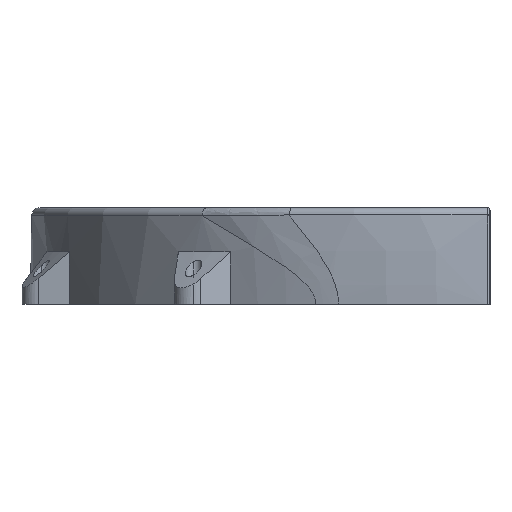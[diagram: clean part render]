
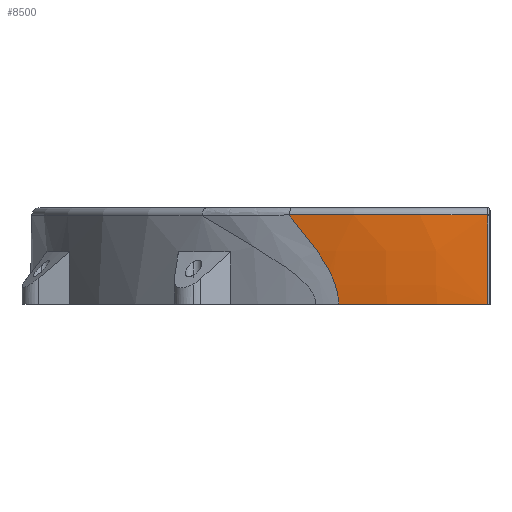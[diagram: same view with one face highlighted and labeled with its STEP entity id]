
A CAD part, left-side view. The second image highlights one B-rep face of the part: STEP entity #8500.
In plain terms, the highlighted toroidal (fillet/blend) face has major radius 50 mm and minor radius 150 mm.
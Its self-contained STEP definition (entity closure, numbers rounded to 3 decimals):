
#13 = CIRCLE ( 'NONE', #7796, 100. ) ;
#100 = CARTESIAN_POINT ( 'NONE',  ( -79.578, -2.497, 10.788 ) ) ;
#419 = DIRECTION ( 'NONE',  ( -1., 0., 0. ) ) ;
#924 = CARTESIAN_POINT ( 'NONE',  ( -79.942, -2.497, 2.7 ) ) ;
#1049 = CIRCLE ( 'NONE', #7167, 99.127 ) ;
#1079 = CARTESIAN_POINT ( 'NONE',  ( -72.723, 32.277, 14.998 ) ) ;
#1162 = CARTESIAN_POINT ( 'NONE',  ( -74.69, 28.044, 9.478 ) ) ;
#1591 = EDGE_LOOP ( 'NONE', ( #1861, #8237, #2552, #7137 ) ) ;
#1767 = CARTESIAN_POINT ( 'NONE',  ( -75.049, 27.182, 8.168 ) ) ;
#1844 = VERTEX_POINT ( 'NONE', #5979 ) ;
#1861 = ORIENTED_EDGE ( 'NONE', *, *, #2152, .F. ) ;
#1994 = VERTEX_POINT ( 'NONE', #5754 ) ;
#2053 = B_SPLINE_CURVE_WITH_KNOTS ( 'NONE', 3,
 ( #7378, #924, #3580, #100, #8026, #6244 ),
 .UNSPECIFIED., .F., .F.,
 ( 4, 2, 4 ),
 ( 0., 0.008, 0.016 ),
 .UNSPECIFIED. ) ;
#2152 = EDGE_CURVE ( 'NONE', #1994, #1844, #13, .T. ) ;
#2364 = DIRECTION ( 'NONE',  ( -1., 0., 0. ) ) ;
#2465 = CARTESIAN_POINT ( 'NONE',  ( -76.069, 24.519, 2.01 ) ) ;
#2552 = ORIENTED_EDGE ( 'NONE', *, *, #5046, .T. ) ;
#2606 = DIRECTION ( 'NONE',  ( -1., 0., 0. ) ) ;
#2789 = CARTESIAN_POINT ( 'NONE',  ( -72.202, 33.255, 16.162 ) ) ;
#3073 = CARTESIAN_POINT ( 'NONE',  ( -74.498, 28.494, 10.119 ) ) ;
#3158 = CARTESIAN_POINT ( 'NONE',  ( -73.878, 29.88, 11.992 ) ) ;
#3159 = AXIS2_PLACEMENT_3D ( 'NONE', #6992, #4368, #2364 ) ;
#3580 = CARTESIAN_POINT ( 'NONE',  ( -79.87, -2.497, 5.4 ) ) ;
#3640 = CARTESIAN_POINT ( 'NONE',  ( -76.127, 24.357, 0.813 ) ) ;
#3647 = EDGE_CURVE ( 'NONE', #7557, #1844, #6496, .T. ) ;
#3806 = CARTESIAN_POINT ( 'NONE',  ( -75.517, 26.004, 6.122 ) ) ;
#4301 = CARTESIAN_POINT ( 'NONE',  ( -76.136, 24.332, 0.406 ) ) ;
#4368 = DIRECTION ( 'NONE',  ( 0., 0., -1. ) ) ;
#4478 = CARTESIAN_POINT ( 'NONE',  ( -75.882, 25.036, 3.934 ) ) ;
#5001 = CARTESIAN_POINT ( 'NONE',  ( -75.652, 25.65, 5.414 ) ) ;
#5043 = CARTESIAN_POINT ( 'NONE',  ( -72.202, 33.255, 16.162 ) ) ;
#5046 = EDGE_CURVE ( 'NONE', #6170, #7557, #1049, .T. ) ;
#5754 = CARTESIAN_POINT ( 'NONE',  ( -79.942, -2.497, 0. ) ) ;
#5783 = CARTESIAN_POINT ( 'NONE',  ( -75.974, 24.783, 3.178 ) ) ;
#5979 = CARTESIAN_POINT ( 'NONE',  ( -76.136, 24.332, 0. ) ) ;
#6068 = CARTESIAN_POINT ( 'NONE',  ( -79.069, -2.497, 16.162 ) ) ;
#6170 = VERTEX_POINT ( 'NONE', #6068 ) ;
#6244 = CARTESIAN_POINT ( 'NONE',  ( -79.069, -2.497, 16.162 ) ) ;
#6307 = CARTESIAN_POINT ( 'NONE',  ( -76.136, 24.332, 0. ) ) ;
#6455 = FACE_OUTER_BOUND ( 'NONE', #1591, .T. ) ;
#6482 = CARTESIAN_POINT ( 'NONE',  ( 20.056, -3., 0. ) ) ;
#6496 = B_SPLINE_CURVE_WITH_KNOTS ( 'NONE', 3,
 ( #5043, #1079, #7733, #3158, #7695, #3073, #1162, #1767, #6968, #3806, #5001, #4478, #5783, #2465, #8487, #3640, #4301, #6307 ),
 .UNSPECIFIED., .F., .F.,
 ( 4, 2, 2, 2, 2, 2, 2, 2, 4 ),
 ( 0.002, 0.007, 0.009, 0.011, 0.014, 0.016, 0.019, 0.02, 0.021 ),
 .UNSPECIFIED. ) ;
#6928 = TOROIDAL_SURFACE ( 'NONE', #3159, -50., 150. ) ;
#6968 = CARTESIAN_POINT ( 'NONE',  ( -75.216, 26.77, 7.499 ) ) ;
#6992 = CARTESIAN_POINT ( 'NONE',  ( 20.056, -3., 0. ) ) ;
#7137 = ORIENTED_EDGE ( 'NONE', *, *, #3647, .T. ) ;
#7167 = AXIS2_PLACEMENT_3D ( 'NONE', #7773, #7724, #419 ) ;
#7287 = EDGE_CURVE ( 'NONE', #1994, #6170, #2053, .T. ) ;
#7378 = CARTESIAN_POINT ( 'NONE',  ( -79.942, -2.497, 0. ) ) ;
#7557 = VERTEX_POINT ( 'NONE', #2789 ) ;
#7695 = CARTESIAN_POINT ( 'NONE',  ( -74.092, 29.411, 11.376 ) ) ;
#7724 = DIRECTION ( 'NONE',  ( 0., 0., -1. ) ) ;
#7733 = CARTESIAN_POINT ( 'NONE',  ( -73.208, 31.304, 13.815 ) ) ;
#7773 = CARTESIAN_POINT ( 'NONE',  ( 20.056, -3., 16.162 ) ) ;
#7796 = AXIS2_PLACEMENT_3D ( 'NONE', #6482, #7876, #2606 ) ;
#7876 = DIRECTION ( 'NONE',  ( 0., 0., -1. ) ) ;
#8026 = CARTESIAN_POINT ( 'NONE',  ( -79.36, -2.497, 13.478 ) ) ;
#8237 = ORIENTED_EDGE ( 'NONE', *, *, #7287, .T. ) ;
#8487 = CARTESIAN_POINT ( 'NONE',  ( -76.094, 24.45, 1.616 ) ) ;
#8500 = ADVANCED_FACE ( 'NONE', ( #6455 ), #6928, .T. ) ;
